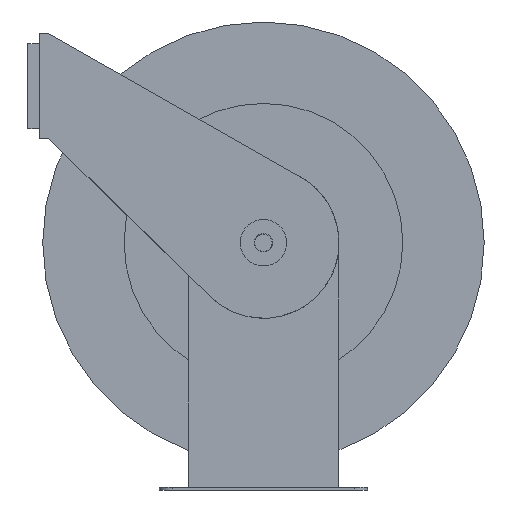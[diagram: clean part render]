
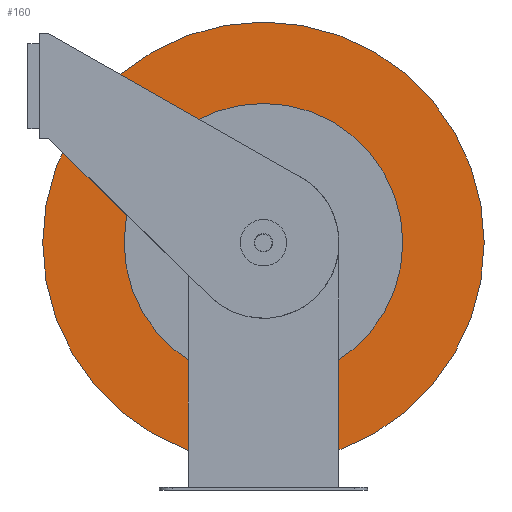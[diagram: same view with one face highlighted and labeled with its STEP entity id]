
A CAD part, front view. The second image highlights one B-rep face of the part: STEP entity #160.
In plain terms, the highlighted planar face has unit normal (0, -1, 0).
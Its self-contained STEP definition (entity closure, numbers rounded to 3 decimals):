
#160 = ADVANCED_FACE( '', ( #421, #422 ), #423, .T. );
#421 = FACE_OUTER_BOUND( '', #818, .T. );
#422 = FACE_BOUND( '', #819, .T. );
#423 = PLANE( '', #820 );
#818 = EDGE_LOOP( '', ( #1316 ) );
#819 = EDGE_LOOP( '', ( #1317 ) );
#820 = AXIS2_PLACEMENT_3D( '', #1318, #1319, #1320 );
#1316 = ORIENTED_EDGE( '', *, *, #2228, .T. );
#1317 = ORIENTED_EDGE( '', *, *, #2229, .F. );
#1318 = CARTESIAN_POINT( '', ( 0., 63.424, 419.532 ) );
#1319 = DIRECTION( '', ( 0., -1., 0. ) );
#1320 = DIRECTION( '', ( 1., 0., 0. ) );
#2228 = EDGE_CURVE( '', #2648, #2648, #2649, .T. );
#2229 = EDGE_CURVE( '', #2650, #2650, #2651, .T. );
#2648 = VERTEX_POINT( '', #3249 );
#2649 = CIRCLE( '', #3250, 241.3 );
#2650 = VERTEX_POINT( '', #3251 );
#2651 = CIRCLE( '', #3252, 152.324 );
#3249 = CARTESIAN_POINT( '', ( 241.3, 63.424, 267.208 ) );
#3250 = AXIS2_PLACEMENT_3D( '', #3920, #3921, #3922 );
#3251 = CARTESIAN_POINT( '', ( 152.324, 63.424, 267.208 ) );
#3252 = AXIS2_PLACEMENT_3D( '', #3923, #3924, #3925 );
#3920 = CARTESIAN_POINT( '', ( 0., 63.424, 267.208 ) );
#3921 = DIRECTION( '', ( 0., -1., 0. ) );
#3922 = DIRECTION( '', ( 1., 0., 0. ) );
#3923 = CARTESIAN_POINT( '', ( 0., 63.424, 267.208 ) );
#3924 = DIRECTION( '', ( 0., -1., 0. ) );
#3925 = DIRECTION( '', ( 1., 0., 0. ) );
